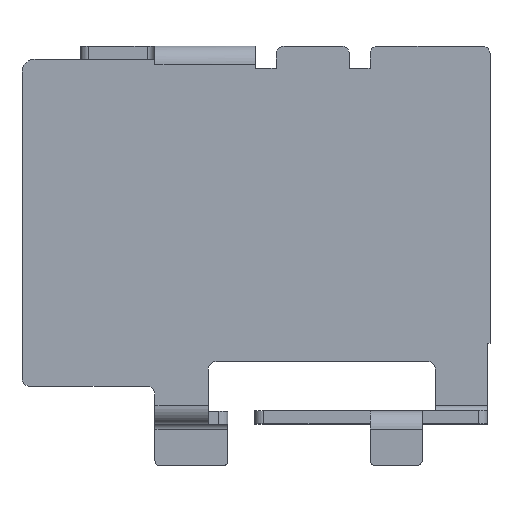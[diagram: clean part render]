
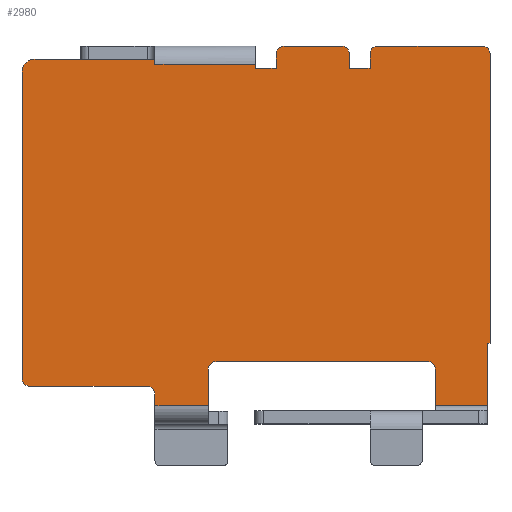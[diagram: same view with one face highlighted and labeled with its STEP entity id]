
A CAD part, top view. The second image highlights one B-rep face of the part: STEP entity #2980.
In plain terms, the highlighted planar face has unit normal (0, 0, 1).
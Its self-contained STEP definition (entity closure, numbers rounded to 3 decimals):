
#39=CARTESIAN_POINT('',(11.68,16.76,0.));
#40=DIRECTION('',(0.,0.,1.));
#41=DIRECTION('',(0.,1.,0.));
#42=AXIS2_PLACEMENT_3D('',#39,#40,#41);
#48=DIRECTION('',(-1.,0.,0.));
#49=VECTOR('',#48,4.6);
#50=CARTESIAN_POINT('',(16.28,17.26,0.));
#51=LINE('',#50,#49);
#55=DIRECTION('',(0.,1.,0.));
#56=VECTOR('',#55,0.2);
#57=CARTESIAN_POINT('',(16.28,17.06,0.));
#58=LINE('',#57,#56);
#62=DIRECTION('',(0.,-1.,0.));
#63=VECTOR('',#62,0.158);
#64=CARTESIAN_POINT('',(20.13,17.06,0.));
#65=LINE('',#64,#63);
#69=DIRECTION('',(-1.,0.,0.));
#70=VECTOR('',#69,0.8);
#71=CARTESIAN_POINT('',(20.93,16.902,0.));
#72=LINE('',#71,#70);
#76=DIRECTION('',(0.,1.,0.));
#77=VECTOR('',#76,0.558);
#78=CARTESIAN_POINT('',(20.93,16.902,0.));
#79=LINE('',#78,#77);
#83=CARTESIAN_POINT('',(21.23,17.46,0.));
#84=DIRECTION('',(0.,0.,-1.));
#85=DIRECTION('',(-1.,0.,0.));
#86=AXIS2_PLACEMENT_3D('',#83,#84,#85);
#91=DIRECTION('',(1.,0.,0.));
#92=VECTOR('',#91,2.2);
#93=CARTESIAN_POINT('',(21.23,17.76,0.));
#94=LINE('',#93,#92);
#98=CARTESIAN_POINT('',(23.43,17.46,0.));
#99=DIRECTION('',(0.,0.,-1.));
#100=DIRECTION('',(0.,1.,0.));
#101=AXIS2_PLACEMENT_3D('',#98,#99,#100);
#106=DIRECTION('',(0.,-1.,0.));
#107=VECTOR('',#106,0.558);
#108=CARTESIAN_POINT('',(23.73,17.46,0.));
#109=LINE('',#108,#107);
#113=DIRECTION('',(-1.,0.,0.));
#114=VECTOR('',#113,0.8);
#115=CARTESIAN_POINT('',(24.53,16.902,0.));
#116=LINE('',#115,#114);
#120=DIRECTION('',(0.,1.,0.));
#121=VECTOR('',#120,0.558);
#122=CARTESIAN_POINT('',(24.53,16.902,0.));
#123=LINE('',#122,#121);
#127=CARTESIAN_POINT('',(24.83,17.46,0.));
#128=DIRECTION('',(0.,0.,-1.));
#129=DIRECTION('',(-1.,0.,0.));
#130=AXIS2_PLACEMENT_3D('',#127,#128,#129);
#135=DIRECTION('',(1.,0.,0.));
#136=VECTOR('',#135,4.);
#137=CARTESIAN_POINT('',(24.83,17.76,0.));
#138=LINE('',#137,#136);
#142=CARTESIAN_POINT('',(28.83,17.46,0.));
#143=DIRECTION('',(0.,0.,-1.));
#144=DIRECTION('',(0.,1.,0.));
#145=AXIS2_PLACEMENT_3D('',#142,#143,#144);
#150=DIRECTION('',(1.,0.,0.));
#151=VECTOR('',#150,0.1);
#152=CARTESIAN_POINT('',(29.03,6.36,0.));
#153=LINE('',#152,#151);
#157=DIRECTION('',(0.,-1.,0.));
#158=VECTOR('',#157,2.4);
#159=CARTESIAN_POINT('',(29.03,6.36,0.));
#160=LINE('',#159,#158);
#164=DIRECTION('',(0.,1.,0.));
#165=VECTOR('',#164,1.4);
#166=CARTESIAN_POINT('',(27.03,3.96,0.));
#167=LINE('',#166,#165);
#171=CARTESIAN_POINT('',(26.73,5.36,0.));
#172=DIRECTION('',(0.,0.,1.));
#173=DIRECTION('',(1.,0.,0.));
#174=AXIS2_PLACEMENT_3D('',#171,#172,#173);
#179=DIRECTION('',(-1.,0.,0.));
#180=VECTOR('',#179,8.1);
#181=CARTESIAN_POINT('',(26.73,5.66,0.));
#182=LINE('',#181,#180);
#186=CARTESIAN_POINT('',(18.63,5.36,0.));
#187=DIRECTION('',(0.,0.,1.));
#188=DIRECTION('',(0.,1.,0.));
#189=AXIS2_PLACEMENT_3D('',#186,#187,#188);
#194=DIRECTION('',(0.,-1.,0.));
#195=VECTOR('',#194,1.4);
#196=CARTESIAN_POINT('',(18.33,5.36,0.));
#197=LINE('',#196,#195);
#201=DIRECTION('',(0.,1.,0.));
#202=VECTOR('',#201,0.45);
#203=CARTESIAN_POINT('',(16.28,3.96,0.));
#204=LINE('',#203,#202);
#208=CARTESIAN_POINT('',(15.98,4.41,0.));
#209=DIRECTION('',(0.,0.,1.));
#210=DIRECTION('',(1.,0.,0.));
#211=AXIS2_PLACEMENT_3D('',#208,#209,#210);
#216=DIRECTION('',(-1.,0.,0.));
#217=VECTOR('',#216,4.5);
#218=CARTESIAN_POINT('',(15.98,4.71,0.));
#219=LINE('',#218,#217);
#223=CARTESIAN_POINT('',(11.48,5.01,0.));
#224=DIRECTION('',(0.,0.,-1.));
#225=DIRECTION('',(0.,-1.,0.));
#226=AXIS2_PLACEMENT_3D('',#223,#224,#225);
#345=DIRECTION('',(0.,-1.,0.));
#346=VECTOR('',#345,11.75);
#347=CARTESIAN_POINT('',(11.18,16.76,0.));
#348=LINE('',#347,#346);
#431=DIRECTION('',(1.,0.,0.));
#432=VECTOR('',#431,2.05);
#433=CARTESIAN_POINT('',(16.28,3.96,0.));
#434=LINE('',#433,#432);
#734=DIRECTION('',(1.,0.,0.));
#735=VECTOR('',#734,2.);
#736=CARTESIAN_POINT('',(27.03,3.96,0.));
#737=LINE('',#736,#735);
#1893=DIRECTION('',(0.,1.,0.));
#1894=VECTOR('',#1893,11.1);
#1895=CARTESIAN_POINT('',(29.13,6.36,0.));
#1896=LINE('',#1895,#1894);
#2064=DIRECTION('',(-1.,0.,0.));
#2065=VECTOR('',#2064,3.85);
#2066=CARTESIAN_POINT('',(20.13,17.06,0.));
#2067=LINE('',#2066,#2065);
#2485=CARTESIAN_POINT('',(27.03,3.96,0.));
#2486=CARTESIAN_POINT('',(29.03,3.96,0.));
#2487=VERTEX_POINT('',#2485);
#2488=VERTEX_POINT('',#2486);
#2489=CARTESIAN_POINT('',(27.03,5.36,0.));
#2490=VERTEX_POINT('',#2489);
#2491=CARTESIAN_POINT('',(26.73,5.66,0.));
#2492=VERTEX_POINT('',#2491);
#2493=CARTESIAN_POINT('',(18.63,5.66,0.));
#2494=VERTEX_POINT('',#2493);
#2495=CARTESIAN_POINT('',(18.33,5.36,0.));
#2496=VERTEX_POINT('',#2495);
#2497=CARTESIAN_POINT('',(18.33,3.96,0.));
#2498=VERTEX_POINT('',#2497);
#2499=CARTESIAN_POINT('',(16.28,3.96,0.));
#2500=VERTEX_POINT('',#2499);
#2501=CARTESIAN_POINT('',(16.28,4.41,0.));
#2502=VERTEX_POINT('',#2501);
#2503=CARTESIAN_POINT('',(15.98,4.71,0.));
#2504=VERTEX_POINT('',#2503);
#2505=CARTESIAN_POINT('',(11.48,4.71,0.));
#2506=VERTEX_POINT('',#2505);
#2507=CARTESIAN_POINT('',(11.18,5.01,0.));
#2508=VERTEX_POINT('',#2507);
#2509=CARTESIAN_POINT('',(20.93,17.46,0.));
#2510=CARTESIAN_POINT('',(21.23,17.76,0.));
#2511=VERTEX_POINT('',#2509);
#2512=VERTEX_POINT('',#2510);
#2513=CARTESIAN_POINT('',(23.43,17.76,0.));
#2514=VERTEX_POINT('',#2513);
#2515=CARTESIAN_POINT('',(23.73,17.46,0.));
#2516=VERTEX_POINT('',#2515);
#2517=CARTESIAN_POINT('',(24.53,17.46,0.));
#2518=CARTESIAN_POINT('',(24.83,17.76,0.));
#2519=VERTEX_POINT('',#2517);
#2520=VERTEX_POINT('',#2518);
#2521=CARTESIAN_POINT('',(28.83,17.76,0.));
#2522=VERTEX_POINT('',#2521);
#2523=CARTESIAN_POINT('',(29.13,17.46,0.));
#2524=VERTEX_POINT('',#2523);
#2541=CARTESIAN_POINT('',(20.13,17.06,0.));
#2543=VERTEX_POINT('',#2541);
#2870=CARTESIAN_POINT('',(24.53,16.902,0.));
#2872=VERTEX_POINT('',#2870);
#2874=CARTESIAN_POINT('',(23.73,16.902,0.));
#2876=VERTEX_POINT('',#2874);
#2878=CARTESIAN_POINT('',(20.93,16.902,0.));
#2880=VERTEX_POINT('',#2878);
#2882=CARTESIAN_POINT('',(20.13,16.902,0.));
#2884=VERTEX_POINT('',#2882);
#2886=CARTESIAN_POINT('',(16.28,17.06,0.));
#2888=VERTEX_POINT('',#2886);
#2893=CARTESIAN_POINT('',(16.28,17.26,0.));
#2894=VERTEX_POINT('',#2893);
#2895=CARTESIAN_POINT('',(29.13,6.36,0.));
#2896=VERTEX_POINT('',#2895);
#2900=CARTESIAN_POINT('',(29.03,6.36,0.));
#2902=VERTEX_POINT('',#2900);
#2907=CARTESIAN_POINT('',(11.68,17.26,0.));
#2908=VERTEX_POINT('',#2907);
#2909=CARTESIAN_POINT('',(11.18,16.76,0.));
#2910=VERTEX_POINT('',#2909);
#2911=CARTESIAN_POINT('',(0.,0.,0.));
#2912=DIRECTION('',(0.,0.,1.));
#2913=DIRECTION('',(1.,0.,0.));
#2914=AXIS2_PLACEMENT_3D('',#2911,#2912,#2913);
#2915=PLANE('',#2914);
#2917=ORIENTED_EDGE('',*,*,#2916,.F.);
#2919=ORIENTED_EDGE('',*,*,#2918,.F.);
#2921=ORIENTED_EDGE('',*,*,#2920,.F.);
#2923=ORIENTED_EDGE('',*,*,#2922,.F.);
#2925=ORIENTED_EDGE('',*,*,#2924,.T.);
#2927=ORIENTED_EDGE('',*,*,#2926,.F.);
#2929=ORIENTED_EDGE('',*,*,#2928,.T.);
#2931=ORIENTED_EDGE('',*,*,#2930,.T.);
#2933=ORIENTED_EDGE('',*,*,#2932,.T.);
#2935=ORIENTED_EDGE('',*,*,#2934,.T.);
#2937=ORIENTED_EDGE('',*,*,#2936,.T.);
#2939=ORIENTED_EDGE('',*,*,#2938,.F.);
#2941=ORIENTED_EDGE('',*,*,#2940,.T.);
#2943=ORIENTED_EDGE('',*,*,#2942,.T.);
#2945=ORIENTED_EDGE('',*,*,#2944,.T.);
#2947=ORIENTED_EDGE('',*,*,#2946,.T.);
#2949=ORIENTED_EDGE('',*,*,#2948,.F.);
#2951=ORIENTED_EDGE('',*,*,#2950,.F.);
#2953=ORIENTED_EDGE('',*,*,#2952,.T.);
#2955=ORIENTED_EDGE('',*,*,#2954,.F.);
#2957=ORIENTED_EDGE('',*,*,#2956,.T.);
#2959=ORIENTED_EDGE('',*,*,#2958,.T.);
#2961=ORIENTED_EDGE('',*,*,#2960,.T.);
#2963=ORIENTED_EDGE('',*,*,#2962,.T.);
#2965=ORIENTED_EDGE('',*,*,#2964,.T.);
#2967=ORIENTED_EDGE('',*,*,#2966,.F.);
#2969=ORIENTED_EDGE('',*,*,#2968,.T.);
#2971=ORIENTED_EDGE('',*,*,#2970,.T.);
#2973=ORIENTED_EDGE('',*,*,#2972,.T.);
#2975=ORIENTED_EDGE('',*,*,#2974,.T.);
#2977=ORIENTED_EDGE('',*,*,#2976,.F.);
#2978=EDGE_LOOP('',(#2917,#2919,#2921,#2923,#2925,#2927,#2929,#2931,#2933,#2935,
#2937,#2939,#2941,#2943,#2945,#2947,#2949,#2951,#2953,#2955,#2957,#2959,#2961,
#2963,#2965,#2967,#2969,#2971,#2973,#2975,#2977));
#2979=FACE_OUTER_BOUND('',#2978,.F.);
#43=CIRCLE('',#42,0.5);
#87=CIRCLE('',#86,0.3);
#102=CIRCLE('',#101,0.3);
#131=CIRCLE('',#130,0.3);
#146=CIRCLE('',#145,0.3);
#175=CIRCLE('',#174,0.3);
#190=CIRCLE('',#189,0.3);
#212=CIRCLE('',#211,0.3);
#227=CIRCLE('',#226,0.3);
#2916=EDGE_CURVE('',#2908,#2910,#43,.T.);
#2918=EDGE_CURVE('',#2894,#2908,#51,.T.);
#2920=EDGE_CURVE('',#2888,#2894,#58,.T.);
#2922=EDGE_CURVE('',#2543,#2888,#2067,.T.);
#2924=EDGE_CURVE('',#2543,#2884,#65,.T.);
#2926=EDGE_CURVE('',#2880,#2884,#72,.T.);
#2928=EDGE_CURVE('',#2880,#2511,#79,.T.);
#2930=EDGE_CURVE('',#2511,#2512,#87,.T.);
#2932=EDGE_CURVE('',#2512,#2514,#94,.T.);
#2934=EDGE_CURVE('',#2514,#2516,#102,.T.);
#2936=EDGE_CURVE('',#2516,#2876,#109,.T.);
#2938=EDGE_CURVE('',#2872,#2876,#116,.T.);
#2940=EDGE_CURVE('',#2872,#2519,#123,.T.);
#2942=EDGE_CURVE('',#2519,#2520,#131,.T.);
#2944=EDGE_CURVE('',#2520,#2522,#138,.T.);
#2946=EDGE_CURVE('',#2522,#2524,#146,.T.);
#2948=EDGE_CURVE('',#2896,#2524,#1896,.T.);
#2950=EDGE_CURVE('',#2902,#2896,#153,.T.);
#2952=EDGE_CURVE('',#2902,#2488,#160,.T.);
#2954=EDGE_CURVE('',#2487,#2488,#737,.T.);
#2956=EDGE_CURVE('',#2487,#2490,#167,.T.);
#2958=EDGE_CURVE('',#2490,#2492,#175,.T.);
#2960=EDGE_CURVE('',#2492,#2494,#182,.T.);
#2962=EDGE_CURVE('',#2494,#2496,#190,.T.);
#2964=EDGE_CURVE('',#2496,#2498,#197,.T.);
#2966=EDGE_CURVE('',#2500,#2498,#434,.T.);
#2968=EDGE_CURVE('',#2500,#2502,#204,.T.);
#2970=EDGE_CURVE('',#2502,#2504,#212,.T.);
#2972=EDGE_CURVE('',#2504,#2506,#219,.T.);
#2974=EDGE_CURVE('',#2506,#2508,#227,.T.);
#2976=EDGE_CURVE('',#2910,#2508,#348,.T.);
#2980=ADVANCED_FACE('',(#2979),#2915,.T.);
